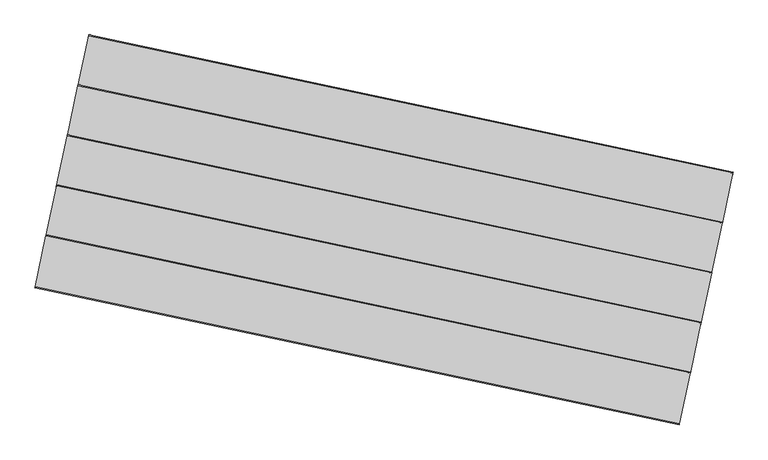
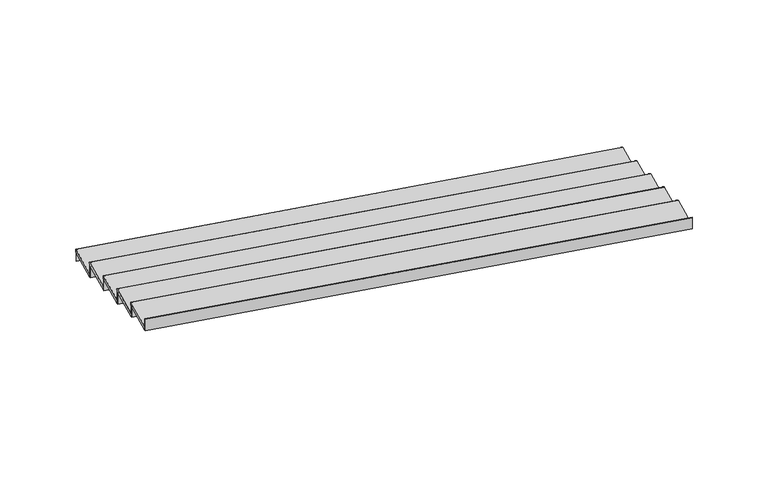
"""IFC4 building model written with IfcOpenShell, lengths in millimetres: stair flight geometry, Wood Steps with 50 mm Tread 20 mm Nosing 13 mm Riser."""

import ifcopenshell
import ifcopenshell.guid

model = None  # the IFC model being written
_history = None  # IfcOwnerHistory: only IFC2X3 demands one
_inside = {}  # id of a spatial element -> (the spatial element, [elements in it])
_under = {}  # id of a project, library or spatial element -> (it, [spatial elements below it])
_declared = {}  # id of a project -> (the project, [libraries it declares])
_typed = {}  # id of a type object -> (the type object, [elements of that type])
_made_of = {}  # id of a material, layer set ... -> (it, [elements and type objects made of it])


def new_model(schema):
    """Start an empty IFC model of exactly this schema.

    Asked for "IFC4X3", IfcOpenShell would pick the latest addendum, in which some entities
    have other attributes; the version numbers below select the first issue.
    IFC2X3 requires an IfcOwnerHistory on every rooted entity: one is made here for all.
    """
    global model, _history
    if schema == "IFC4X3":
        model = ifcopenshell.file(schema_version=(4, 3, 0, 0))
    else:
        model = ifcopenshell.file(schema=schema)
    _inside.clear()
    _under.clear()
    _declared.clear()
    _typed.clear()
    _made_of.clear()
    _history = None
    if model.schema == "IFC2X3":
        org = make("IfcOrganization", Name="unknown")
        user = make(
            "IfcPersonAndOrganization",
            ThePerson=make("IfcPerson", FamilyName="unknown"),
            TheOrganization=org,
        )
        app = make(
            "IfcApplication",
            ApplicationDeveloper=org,
            Version="unknown",
            ApplicationFullName="unknown",
            ApplicationIdentifier="unknown",
        )
        _history = make(
            "IfcOwnerHistory",
            OwningUser=user,
            OwningApplication=app,
            ChangeAction="ADDED",
            CreationDate=0,
        )
    return model


def make(cls, **values):
    """One entity of the class cls with the attributes given. An attribute that is None is left unset."""
    return model.create_entity(
        cls, **{name: value for name, value in values.items() if value is not None}
    )


def rooted(cls, **values):
    """An entity with a GlobalId (a new one), such as an element, a storey or a relation."""
    return make(cls, GlobalId=ifcopenshell.guid.new(), OwnerHistory=_history, **values)


def si_unit(unit_type, name, prefix=None):
    """IfcSIUnit, for example si_unit("LENGTHUNIT", "METRE", prefix="MILLI")."""
    return make("IfcSIUnit", UnitType=unit_type, Prefix=prefix, Name=name)


def assignment(units):
    """IfcUnitAssignment: the units of a project."""
    return None if units is None else make("IfcUnitAssignment", Units=units)


def point(xyz):
    """IfcCartesianPoint."""
    return None if xyz is None else make("IfcCartesianPoint", Coordinates=xyz)


def direction(xyz):
    """IfcDirection."""
    return None if xyz is None else make("IfcDirection", DirectionRatios=xyz)


def frame(location, z_axis=None, x_axis=None):
    """IfcAxis2Placement3D, a coordinate frame: its origin and axes. An axis left out is left unset."""
    return make(
        "IfcAxis2Placement3D",
        Location=point(location),
        Axis=direction(z_axis),
        RefDirection=direction(x_axis),
    )


def frame_2d(location, x_axis=None):
    """IfcAxis2Placement2D, a coordinate frame in the plane: its origin and x axis."""
    return make(
        "IfcAxis2Placement2D", Location=point(location), RefDirection=direction(x_axis)
    )


def origin():
    """The frame at (0, 0, 0) with its axes left unset."""
    return frame((0.0, 0.0, 0.0))


def place(relative_to, where):
    """IfcLocalPlacement: puts the frame where relative to a parent placement (None: the world)."""
    return make(
        "IfcLocalPlacement", PlacementRelTo=relative_to, RelativePlacement=where
    )


def context(
    kind, dimensions, precision=None, world=None, true_north=None, identifier=None
):
    """IfcGeometricRepresentationContext, for example the 3D "Model" context."""
    return make(
        "IfcGeometricRepresentationContext",
        ContextIdentifier=identifier,
        ContextType=kind,
        CoordinateSpaceDimension=dimensions,
        Precision=precision,
        WorldCoordinateSystem=world,
        TrueNorth=true_north,
    )


def project(units=None, contexts=None):
    """IfcProject with its units and contexts."""
    return rooted(
        "IfcProject",
        Name="project",
        RepresentationContexts=contexts,
        UnitsInContext=assignment(units),
    )


def spatial(cls, under=None, at=None, **own):
    """A site, building, storey or space (cls), placed at a placement, below another one or the project."""
    s = rooted(cls, ObjectPlacement=at, **own)
    if under is not None:
        _under.setdefault(under.id(), (under, []))[1].append(s)
    return s


def polyline(points):
    """IfcPolyline through the points."""
    return make("IfcPolyline", Points=[point(p) for p in points])


def circle_curve(where, radius):
    """IfcCircle in the frame where."""
    return make("IfcCircle", Position=where, Radius=radius)


def trimmed(basis, trim1, trim2, sense, master):
    """IfcTrimmedCurve: the piece of a basis curve between two trims."""
    return make(
        "IfcTrimmedCurve",
        BasisCurve=basis,
        Trim1=trim1,
        Trim2=trim2,
        SenseAgreement=sense,
        MasterRepresentation=master,
    )


def segment(curve, same_sense, transition):
    """IfcCompositeCurveSegment."""
    return make(
        "IfcCompositeCurveSegment",
        Transition=transition,
        SameSense=same_sense,
        ParentCurve=curve,
    )


def composite_curve(segments, self_intersect=None):
    """IfcCompositeCurve: segments joined end to end."""
    return make("IfcCompositeCurve", Segments=segments, SelfIntersect=self_intersect)


def outline(outer, holes=None, kind="AREA"):
    """IfcArbitraryClosedProfileDef: a profile drawn as a closed curve; with holes, ...WithVoids."""
    if holes is None:
        return make("IfcArbitraryClosedProfileDef", ProfileType=kind, OuterCurve=outer)
    return make(
        "IfcArbitraryProfileDefWithVoids",
        ProfileType=kind,
        OuterCurve=outer,
        InnerCurves=holes,
    )


def extrude(swept, where, along, depth):
    """IfcExtrudedAreaSolid: the profile swept, set in the frame where, extruded along a direction by depth."""
    return make(
        "IfcExtrudedAreaSolid",
        SweptArea=swept,
        Position=where,
        ExtrudedDirection=direction(along),
        Depth=depth,
    )


def shape(context_of_items, identifier, shape_type, items):
    """IfcShapeRepresentation: the items that make up one representation, for example the "Body"."""
    return make(
        "IfcShapeRepresentation",
        ContextOfItems=context_of_items,
        RepresentationIdentifier=identifier,
        RepresentationType=shape_type,
        Items=items,
    )


def source(mapping_origin, context_of_items, identifier, shape_type, items):
    """IfcRepresentationMap: a shape defined once, which mapped items show again and again."""
    return make(
        "IfcRepresentationMap",
        MappingOrigin=mapping_origin,
        MappedRepresentation=shape(context_of_items, identifier, shape_type, items),
    )


def transform(
    local_origin,
    x_axis=None,
    y_axis=None,
    z_axis=None,
    scale=None,
    scale2=None,
    scale3=None,
    uniform=True,
):
    """IfcCartesianTransformationOperator3D, or its non-uniform kind. x_axis, y_axis, z_axis: its Axis1, 2, 3."""
    if uniform:
        return make(
            "IfcCartesianTransformationOperator3D",
            Axis1=direction(x_axis),
            Axis2=direction(y_axis),
            LocalOrigin=point(local_origin),
            Scale=scale,
            Axis3=direction(z_axis),
        )
    return make(
        "IfcCartesianTransformationOperator3DnonUniform",
        Axis1=direction(x_axis),
        Axis2=direction(y_axis),
        LocalOrigin=point(local_origin),
        Scale=scale,
        Axis3=direction(z_axis),
        Scale2=scale2,
        Scale3=scale3,
    )


def mapped(mapping_source, mapping_target):
    """IfcMappedItem: shows the shape of a source again, moved by a transform."""
    return make(
        "IfcMappedItem", MappingSource=mapping_source, MappingTarget=mapping_target
    )


def made_of(thing, what):
    """Note that an element or type object is made of a material, layer set ...; save() writes the relation."""
    if what is not None:
        _made_of.setdefault(what.id(), (what, []))[1].append(thing)
    return thing


def element(
    cls,
    number,
    at=None,
    inside=None,
    cuts=None,
    type_object=None,
    material=None,
    context=None,
    identifier="Body",
    shape_type=None,
    held_by="IfcProductDefinitionShape",
    body=None,
    shapes=None,
    **own,
):
    """One element of the class cls, such as IfcWall. Its Tag is "e" and its number.

    at: its placement. inside: the storey or other place that contains it. cuts: it is an
    opening in that element (IfcRelVoidsElement). A single representation is given by context,
    identifier, shape_type and body (its items); several are given by shapes. held_by: the class
    of the entity that holds the representations. save() writes the other relations.
    """
    e = rooted(cls, Tag="e%d" % number, ObjectPlacement=at, **own)
    if body is not None:
        shapes = [shape(context, identifier, shape_type, body)]
    if shapes is not None:
        e.Representation = make(held_by, Representations=shapes)
    if inside is not None:
        _inside.setdefault(inside.id(), (inside, []))[1].append(e)
    if cuts is not None:
        rooted(
            "IfcRelVoidsElement", RelatingBuildingElement=cuts, RelatedOpeningElement=e
        )
    if type_object is not None:
        _typed.setdefault(type_object.id(), (type_object, []))[1].append(e)
    return made_of(e, material)


def aggregate(whole, parts):
    """IfcRelAggregates: a whole, such as a stair, and the parts it consists of."""
    return rooted("IfcRelAggregates", RelatingObject=whole, RelatedObjects=parts)


def save(model, path):
    """Write the relations noted so far, then the file.

    IfcRelAggregates (storeys below a building ...), IfcRelContainedInSpatialStructure (elements
    in a storey), IfcRelDefinesByType, IfcRelAssociatesMaterial and IfcRelDeclares: one each for
    every whole, place, type object, material and project.
    """
    for whole, parts in _under.values():
        aggregate(whole, parts)
    for where, things in _inside.values():
        rooted(
            "IfcRelContainedInSpatialStructure",
            RelatedElements=things,
            RelatingStructure=where,
        )
    for kind, things in _typed.values():
        rooted("IfcRelDefinesByType", RelatedObjects=things, RelatingType=kind)
    for what, things in _made_of.values():
        rooted("IfcRelAssociatesMaterial", RelatedObjects=things, RelatingMaterial=what)
    for by, libraries in _declared.values():
        rooted("IfcRelDeclares", RelatingContext=by, RelatedDefinitions=libraries)
    model.write(path)


def stair_flight_9ceca7e3(model_context):
    return source(origin(), model_context, "Body", "SweptSolid", [
        extrude(outline(composite_curve([segment(polyline([(0.0, -598.410772), (0.0, 0.0), (50.0, 0.0), (50.0, -598.410772), (20.0, -598.410772)]), True, "CONTINUOUS"), segment(trimmed(circle_curve(frame_2d((10.0, -598.410772)), 10.0), [point((20.0, -598.410772))], [point((0.0, -598.410772))], False, "CARTESIAN"), True, "CONTINUOUS")], self_intersect=False)), frame((901683.7813427, 59100.4126543, 5179.2941176), z_axis=(-0.9780872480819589, 0.2081954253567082, 0.0), x_axis=(0.0, 0.0, -1.0)), (0.0, 0.0, 1.0), 7580.4308641),
        extrude(outline(polyline([(894389.3605677, 61241.9146646), (894391.9630105, 61254.1407552), (901806.2857737, 59675.929727), (901803.6833309, 59663.7036364), (894389.3605677, 61241.9146646)])), frame((0.0, 0.0, 5000.0), z_axis=(0.0, 0.0, 1.0), x_axis=(1.0, 0.0, 0.0)), (0.0, 0.0, 1.0), 129.2941176),
        extrude(outline(polyline([(894266.8561367, 60666.3975919), (894269.4585796, 60678.6236825), (901683.7813427, 59100.4126543), (901681.1788999, 59088.1865637), (894266.8561367, 60666.3975919)])), frame((0.0, 0.0, 5129.2941176), z_axis=(0.0, 0.0, 1.0), x_axis=(1.0, 0.0, 0.0)), (0.0, 0.0, 1.0), 179.2941176),
        extrude(outline(composite_curve([segment(polyline([(0.0, -598.410772), (0.0, 0.0), (50.0, 0.0), (50.0, -598.410772), (20.0, -598.410772)]), True, "CONTINUOUS"), segment(trimmed(circle_curve(frame_2d((10.0, -598.410772)), 10.0), [point((20.0, -598.410772))], [point((0.0, -598.410772))], False, "CARTESIAN"), True, "CONTINUOUS")], self_intersect=False)), frame((901561.2769118, 58524.8955816, 5358.5882353), z_axis=(-0.9780872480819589, 0.2081954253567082, 0.0), x_axis=(0.0, 0.0, -1.0)), (0.0, 0.0, 1.0), 7580.4308641),
        extrude(outline(polyline([(894144.3517058, 60090.8805192), (894146.9541486, 60103.1066098), (901561.2769118, 58524.8955816), (901558.674469, 58512.669491), (894144.3517058, 60090.8805192)])), frame((0.0, 0.0, 5308.5882353), z_axis=(0.0, 0.0, 1.0), x_axis=(1.0, 0.0, 0.0)), (0.0, 0.0, 1.0), 179.2941176),
        extrude(outline(composite_curve([segment(polyline([(0.0, -598.410772), (0.0, 0.0), (50.0, 0.0), (50.0, -598.410772), (20.0, -598.410772)]), True, "CONTINUOUS"), segment(trimmed(circle_curve(frame_2d((10.0, -598.410772)), 10.0), [point((20.0, -598.410772))], [point((0.0, -598.410772))], False, "CARTESIAN"), True, "CONTINUOUS")], self_intersect=False)), frame((901438.7724808, 57949.3785089, 5537.8823529), z_axis=(-0.9780872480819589, 0.2081954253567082, 0.0), x_axis=(0.0, 0.0, -1.0)), (0.0, 0.0, 1.0), 7580.4308641),
        extrude(outline(polyline([(894021.8472748, 59515.3634464), (894024.4497176, 59527.589537), (901438.7724808, 57949.3785089), (901436.170038, 57937.1524183), (894021.8472748, 59515.3634464)])), frame((0.0, 0.0, 5487.8823529), z_axis=(0.0, 0.0, 1.0), x_axis=(1.0, 0.0, 0.0)), (0.0, 0.0, 1.0), 179.2941176),
        extrude(outline(composite_curve([segment(polyline([(0.0, -598.410772), (0.0, 0.0), (50.0, 0.0), (50.0, -598.410772), (20.0, -598.410772)]), True, "CONTINUOUS"), segment(trimmed(circle_curve(frame_2d((10.0, -598.410772)), 10.0), [point((20.0, -598.410772))], [point((0.0, -598.410772))], False, "CARTESIAN"), True, "CONTINUOUS")], self_intersect=False)), frame((901316.2680499, 57373.8614362, 5717.1764706), z_axis=(-0.9780872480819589, 0.2081954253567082, 0.0), x_axis=(0.0, 0.0, -1.0)), (0.0, 0.0, 1.0), 7580.4308641),
        extrude(outline(polyline([(893899.3428439, 58939.8463737), (893901.9452867, 58952.0724643), (901316.2680499, 57373.8614362), (901313.6656071, 57361.6353456), (893899.3428439, 58939.8463737)])), frame((0.0, 0.0, 5667.1764706), z_axis=(0.0, 0.0, 1.0), x_axis=(1.0, 0.0, 0.0)), (0.0, 0.0, 1.0), 179.2941176),
        extrude(outline(polyline([(893776.8384129, 58364.329301), (893779.4408557, 58376.5553916), (901193.7636189, 56798.3443635), (901191.1611761, 56786.1182729), (893776.8384129, 58364.329301)])), frame((0.0, 0.0, 5846.4705882), z_axis=(0.0, 0.0, 1.0), x_axis=(1.0, 0.0, 0.0)), (0.0, 0.0, 1.0), 179.2941176),
        extrude(outline(composite_curve([segment(polyline([(0.0, -598.410772), (0.0, 0.0), (50.0, 0.0), (50.0, -598.410772), (20.0, -598.410772)]), True, "CONTINUOUS"), segment(trimmed(circle_curve(frame_2d((10.0, -598.410772)), 10.0), [point((20.0, -598.410772))], [point((0.0, -598.410772))], False, "CARTESIAN"), True, "CONTINUOUS")], self_intersect=False)), frame((901193.7636189, 56798.3443635, 5896.4705882), z_axis=(-0.9780872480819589, 0.2081954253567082, 0.0), x_axis=(0.0, 0.0, -1.0)), (0.0, 0.0, 1.0), 7580.4308641),
    ])


if __name__ == "__main__":
    model = new_model("IFC4")
    model_context = context("Model", 3, world=origin())
    ifc_project = project(units=[si_unit("LENGTHUNIT", "METRE", prefix="MILLI")], contexts=[model_context])
    site = spatial("IfcSite", under=ifc_project)
    building = spatial("IfcBuilding", under=site)
    placement = place(None, origin())
    stair_flight_shape = stair_flight_9ceca7e3(model_context)
    element("IfcStairFlight", 1, ObjectType="Wood Steps with 50 mm Tread 20 mm Nosing 13 mm Riser", at=placement, inside=building, context=model_context, shape_type="MappedRepresentation", body=[
        mapped(stair_flight_shape, transform((0.0, 0.0, 0.0), x_axis=(1.0, 0.0, 0.0), y_axis=(0.0, 1.0, 0.0), z_axis=(0.0, 0.0, 1.0))),
    ])
    save(model, "model.ifc")
